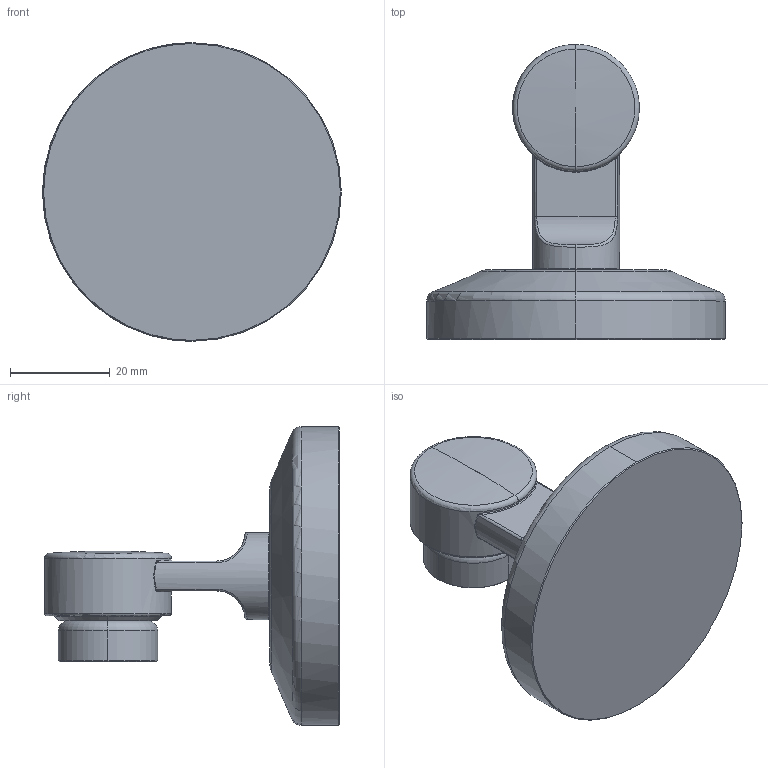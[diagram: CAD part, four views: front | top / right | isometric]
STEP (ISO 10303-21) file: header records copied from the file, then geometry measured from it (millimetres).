
FILE_DESCRIPTION(('THIS FILE CONTAINS SOME STEP INSTANCES'),'1');
FILE_NAME('sta_005.stp','2015-11-26T15:44:17',('UNDEFINED'),('UNDEFINED'),'T-FLEX CAD STEP converter','T-FLEX CAD','');
FILE_SCHEMA(('CONFIG_CONTROL_DESIGN'));
Length unit declared in the file: metre
Products named in the file (1): 3D 鐨飹懤艜_3
Bounding box: 60 x 59.25 x 60 mm (x, y, z)
Volume: 47191.8 mm3; surface area: 10830.7 mm2
Topology: 1 solids, 1 shells, 60 faces, 130 edges, 73 vertices
Faces by surface type: cone 18, cylinder 14, torus 10, bspline 9, plane 7, sphere 2
Entity records: 4534 total; most frequent: CARTESIAN_POINT 3417, ORIENTED_EDGE 256, DIRECTION 194, EDGE_CURVE 128, AXIS2_PLACEMENT_3D 80, VERTEX_POINT 73, EDGE_LOOP 63, ADVANCED_FACE 60
